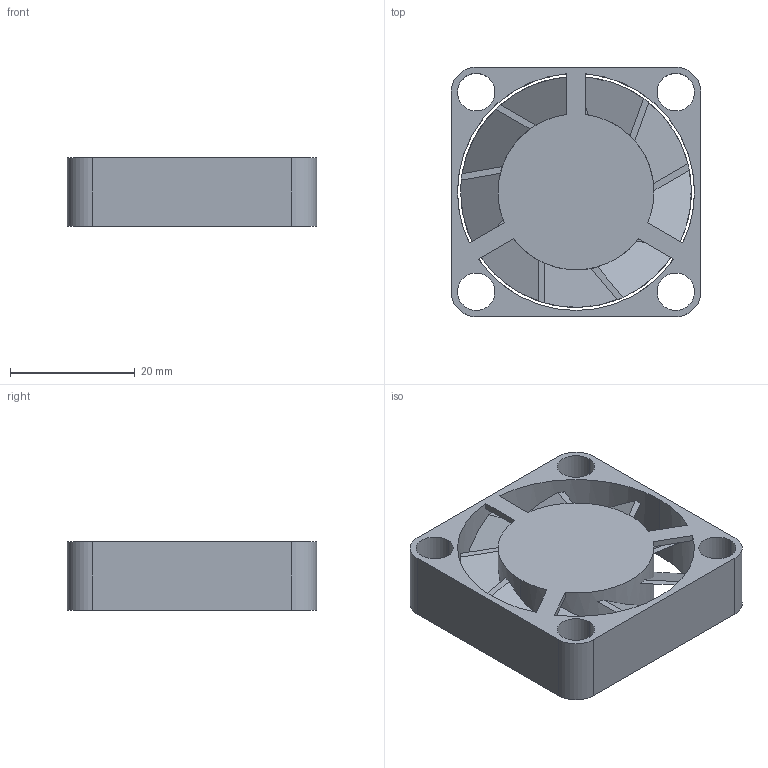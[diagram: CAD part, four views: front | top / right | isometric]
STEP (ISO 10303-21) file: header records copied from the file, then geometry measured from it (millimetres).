
FILE_DESCRIPTION (( 'STEP AP214' ), '1' );
FILE_NAME ('fan_40x40.STEP', '2026-02-22T20:03:51', ( '' ), ( '' ), 'SwSTEP 2.0', 'SolidWorks 2024', '' );
FILE_SCHEMA (( 'AUTOMOTIVE_DESIGN' ));
Length unit declared in the file: millimetre
Products named in the file (1): fan_40x40
Bounding box: 40 x 40 x 11 mm (x, y, z)
Volume: 9577 mm3; surface area: 8163.1 mm2
Topology: 1 solids, 1 shells, 78 faces, 216 edges, 144 vertices
Faces by surface type: plane 52, cylinder 26
Entity records: 2572 total; most frequent: CARTESIAN_POINT 568, ORIENTED_EDGE 432, DIRECTION 412, EDGE_CURVE 216, AXIS2_PLACEMENT_3D 160, VERTEX_POINT 144, EDGE_LOOP 96, VECTOR 92
